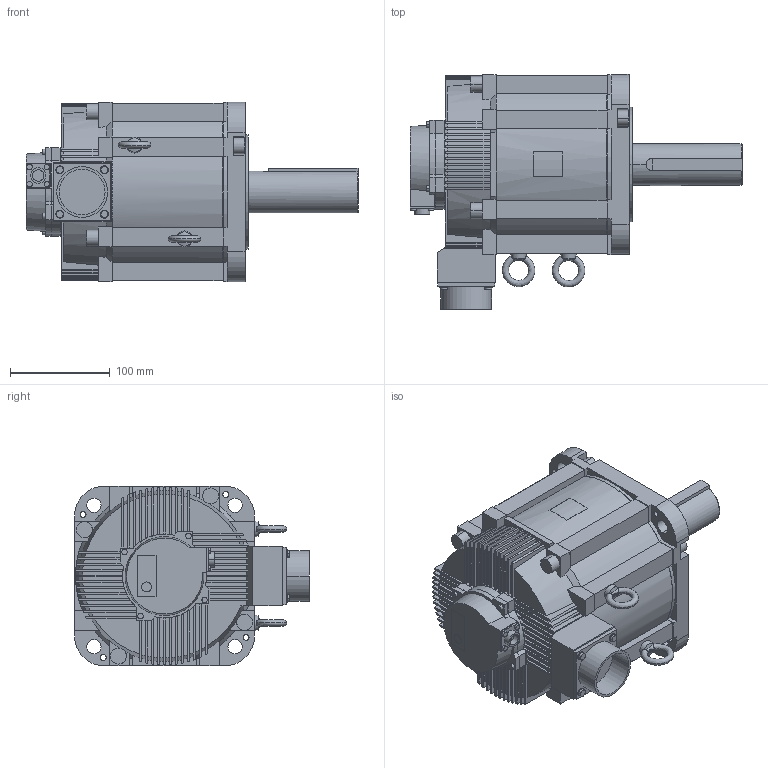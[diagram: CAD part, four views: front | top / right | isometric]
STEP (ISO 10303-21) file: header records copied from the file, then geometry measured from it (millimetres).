
FILE_DESCRIPTION( (''), '2;1');
FILE_NAME ('SGMXG-55AUA61C2.stp','2022-03-02T11:35:19',(''),(''),'spGate 15.6.6','','');
FILE_SCHEMA (('AUTOMOTIVE_DESIGN'));
Length unit declared in the file: millimetre
Products named in the file (3): Assembly; SGMXG-55AUA61C2-prt0; SGMXG-55AUA61C2-prt1
Assembly tree (2 placements, depth 2):
  Assembly
    SGMXG-55AUA61C2-prt0
    SGMXG-55AUA61C2-prt1
Bounding box: 332.2 x 235 x 180 mm (x, y, z)
Volume: 5287621.7 mm3; surface area: 289153 mm2
Topology: 2 solids, 2 shells, 763 faces, 2121 edges, 1398 vertices
Faces by surface type: plane 484, cylinder 186, bspline 93
Entity records: 42221 total; most frequent: CARTESIAN_POINT 6269, ORIENTED_EDGE 4242, DIRECTION 3907, COLOUR_RGB 2886, PRESENTATION_STYLE_ASSIGNMENT 2886, STYLED_ITEM 2886, EDGE_CURVE 2121, DRAUGHTING_PRE_DEFINED_CURVE_FONT 2121
